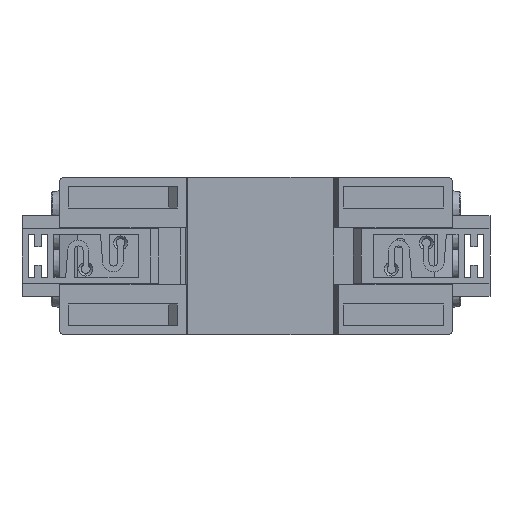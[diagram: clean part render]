
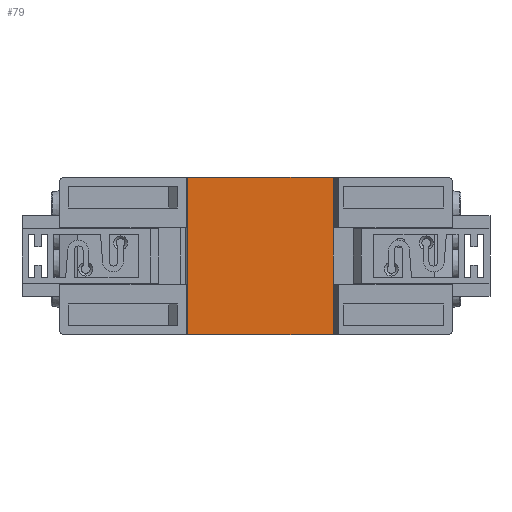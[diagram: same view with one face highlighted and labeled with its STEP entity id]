
A CAD part, left-side view. The second image highlights one B-rep face of the part: STEP entity #79.
In plain terms, the highlighted planar face has unit normal (-1, 0, 0).
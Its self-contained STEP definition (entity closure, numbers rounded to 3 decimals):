
#79 = ADVANCED_FACE ( 'NONE', ( #99509 ), #107319, .F. ) ;
#8206 = CARTESIAN_POINT ( 'NONE',  ( 4.5, -17.7, -18. ) ) ;
#8207 = CARTESIAN_POINT ( 'NONE',  ( 4.5, 15.7, -18. ) ) ;
#8958 = CARTESIAN_POINT ( 'NONE',  ( 4.5, 15.7, 18. ) ) ;
#8962 = CARTESIAN_POINT ( 'NONE',  ( 4.5, -17.7, 18. ) ) ;
#10578 = LINE ( 'NONE', #20353, #10581 ) ;
#10581 = VECTOR ( 'NONE', #20358, 1000. ) ;
#20353 = CARTESIAN_POINT ( 'NONE',  ( 4.5, -17.7, -18. ) ) ;
#20358 = DIRECTION ( 'NONE',  ( 0., 0., 1. ) ) ;
#21746 = LINE ( 'NONE', #23277, #21752 ) ;
#21752 = VECTOR ( 'NONE', #23279, 1000. ) ;
#21955 = LINE ( 'NONE', #23414, #21961 ) ;
#21961 = VECTOR ( 'NONE', #23415, 1000. ) ;
#23277 = CARTESIAN_POINT ( 'NONE',  ( 4.5, 15.7, -18. ) ) ;
#23279 = DIRECTION ( 'NONE',  ( 0., 0., 1. ) ) ;
#23414 = CARTESIAN_POINT ( 'NONE',  ( 4.5, 15.7, 18. ) ) ;
#23415 = DIRECTION ( 'NONE',  ( 0., 1., 0. ) ) ;
#24869 = EDGE_CURVE ( 'NONE', #84802, #85540, #10578, .T. ) ;
#25470 = EDGE_CURVE ( 'NONE', #84803, #85538, #21746, .T. ) ;
#25655 = EDGE_CURVE ( 'NONE', #85540, #85538, #21955, .T. ) ;
#35373 = EDGE_CURVE ( 'NONE', #84802, #84803, #45465, .T. ) ;
#43187 = CARTESIAN_POINT ( 'NONE',  ( 4.5, 15.7, -18. ) ) ;
#43190 = DIRECTION ( 'NONE',  ( 0., 1., 0. ) ) ;
#45465 = LINE ( 'NONE', #43187, #45471 ) ;
#45471 = VECTOR ( 'NONE', #43190, 1000. ) ;
#83720 = ORIENTED_EDGE ( 'NONE', *, *, #25655, .T. ) ;
#83722 = ORIENTED_EDGE ( 'NONE', *, *, #25470, .F. ) ;
#83724 = ORIENTED_EDGE ( 'NONE', *, *, #35373, .F. ) ;
#83726 = ORIENTED_EDGE ( 'NONE', *, *, #24869, .T. ) ;
#84802 = VERTEX_POINT ( 'NONE', #8206 ) ;
#84803 = VERTEX_POINT ( 'NONE', #8207 ) ;
#85538 = VERTEX_POINT ( 'NONE', #8958 ) ;
#85540 = VERTEX_POINT ( 'NONE', #8962 ) ;
#85794 = EDGE_LOOP ( 'NONE', ( #83720, #83722, #83724, #83726 ) ) ;
#89134 = AXIS2_PLACEMENT_3D ( 'NONE', #107312, #107321, #107322 ) ;
#99509 = FACE_OUTER_BOUND ( 'NONE', #85794, .T. ) ;
#107312 = CARTESIAN_POINT ( 'NONE',  ( 4.5, 15.7, -18. ) ) ;
#107319 = PLANE ( 'NONE',  #89134 ) ;
#107321 = DIRECTION ( 'NONE',  ( 1., 0., 0. ) ) ;
#107322 = DIRECTION ( 'NONE',  ( 0., 1., 0. ) ) ;
